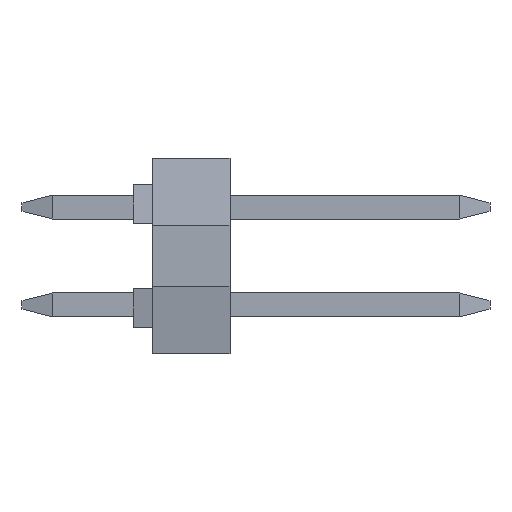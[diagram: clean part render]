
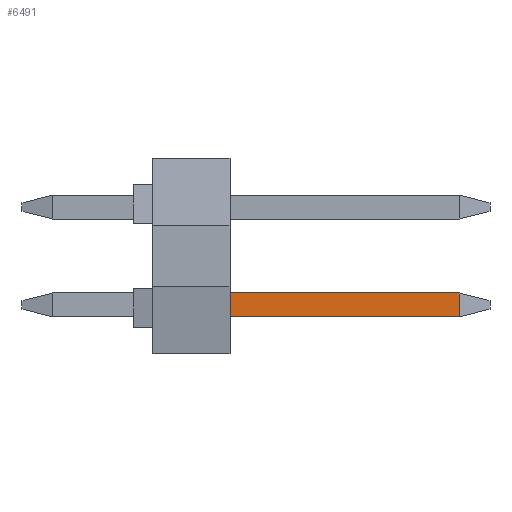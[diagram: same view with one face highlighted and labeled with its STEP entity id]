
A CAD part, left-side view. The second image highlights one B-rep face of the part: STEP entity #6491.
In plain terms, the highlighted planar face has unit normal (-1, 0, 0).
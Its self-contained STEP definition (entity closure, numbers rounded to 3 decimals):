
#17=DIRECTION('',(0.,0.,-1.));
#18=VECTOR('',#17,0.62);
#19=CARTESIAN_POINT('',(-9.2,-1.,-0.96));
#20=LINE('',#19,#18);
#481=DIRECTION('',(0.,0.,1.));
#482=VECTOR('',#481,0.62);
#483=CARTESIAN_POINT('',(-9.2,-6.95,-1.58));
#484=LINE('',#483,#482);
#485=DIRECTION('',(0.,1.,0.));
#486=VECTOR('',#485,5.95);
#487=CARTESIAN_POINT('',(-9.2,-6.95,-1.58));
#488=LINE('',#487,#486);
#489=DIRECTION('',(0.,-1.,0.));
#490=VECTOR('',#489,5.95);
#491=CARTESIAN_POINT('',(-9.2,-1.,-0.96));
#492=LINE('',#491,#490);
#4797=CARTESIAN_POINT('',(-9.2,-1.,-0.96));
#4798=CARTESIAN_POINT('',(-9.2,-1.,-1.58));
#4799=VERTEX_POINT('',#4797);
#4800=VERTEX_POINT('',#4798);
#4858=CARTESIAN_POINT('',(-9.2,-6.95,-1.58));
#4860=VERTEX_POINT('',#4858);
#4869=CARTESIAN_POINT('',(-9.2,-6.95,-0.96));
#4870=VERTEX_POINT('',#4869);
#6477=CARTESIAN_POINT('',(-9.2,0.,0.));
#6478=DIRECTION('',(1.,0.,0.));
#6479=DIRECTION('',(0.,0.,-1.));
#6480=AXIS2_PLACEMENT_3D('',#6477,#6478,#6479);
#6481=PLANE('',#6480);
#6483=ORIENTED_EDGE('',*,*,#6482,.F.);
#6485=ORIENTED_EDGE('',*,*,#6484,.T.);
#6486=ORIENTED_EDGE('',*,*,#6284,.F.);
#6488=ORIENTED_EDGE('',*,*,#6487,.T.);
#6489=EDGE_LOOP('',(#6483,#6485,#6486,#6488));
#6490=FACE_OUTER_BOUND('',#6489,.F.);
#6491=ADVANCED_FACE('',(#6490),#6481,.F.);
#6284=EDGE_CURVE('',#4799,#4800,#20,.T.);
#6482=EDGE_CURVE('',#4860,#4870,#484,.T.);
#6484=EDGE_CURVE('',#4860,#4800,#488,.T.);
#6487=EDGE_CURVE('',#4799,#4870,#492,.T.);
